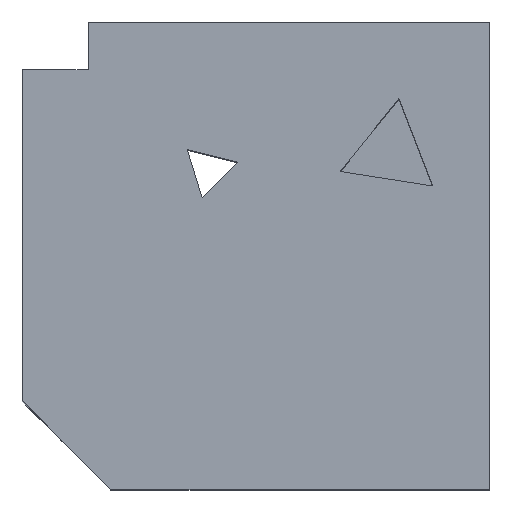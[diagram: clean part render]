
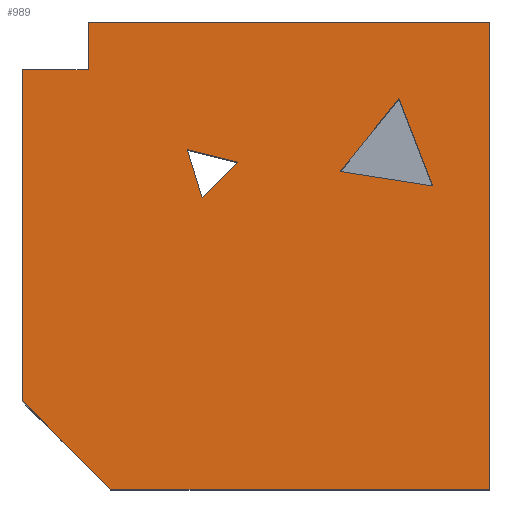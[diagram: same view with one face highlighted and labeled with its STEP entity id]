
A CAD part, top view. The second image highlights one B-rep face of the part: STEP entity #989.
In plain terms, the highlighted planar face has unit normal (0, 0, 1).
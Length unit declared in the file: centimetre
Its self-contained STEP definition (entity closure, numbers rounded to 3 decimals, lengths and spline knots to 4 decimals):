
#10 = CARTESIAN_POINT ( 'NONE',  ( 460.4262, 700.3163, 1000. ) ) ;
#12 = DIRECTION ( 'NONE',  ( -0.628, -0.778, 0. ) ) ;
#20 = DIRECTION ( 'NONE',  ( 0., -1., 0. ) ) ;
#73 = EDGE_CURVE ( 'NONE', #132, #2150, #1881, .T. ) ;
#84 = EDGE_CURVE ( 'NONE', #778, #1831, #168, .T. ) ;
#90 = CARTESIAN_POINT ( 'NONE',  ( 0., 0., 1000. ) ) ;
#98 = CARTESIAN_POINT ( 'NONE',  ( 0., 898.2097, 1000. ) ) ;
#132 = VERTEX_POINT ( 'NONE', #1567 ) ;
#168 = LINE ( 'NONE', #720, #2168 ) ;
#181 = ORIENTED_EDGE ( 'NONE', *, *, #884, .F. ) ;
#211 = ORIENTED_EDGE ( 'NONE', *, *, #1995, .T. ) ;
#254 = DIRECTION ( 'NONE',  ( 0., 0., 1. ) ) ;
#309 = DIRECTION ( 'NONE',  ( 0., 1., 0. ) ) ;
#317 = VERTEX_POINT ( 'NONE', #824 ) ;
#325 = LINE ( 'NONE', #1681, #794 ) ;
#332 = CARTESIAN_POINT ( 'NONE',  ( 140.848, 898.2097, 1000. ) ) ;
#339 = CARTESIAN_POINT ( 'NONE',  ( 877.9034, 649.1632, 1000. ) ) ;
#363 = ORIENTED_EDGE ( 'NONE', *, *, #84, .T. ) ;
#367 = EDGE_CURVE ( 'NONE', #317, #1569, #325, .T. ) ;
#371 = LINE ( 'NONE', #10, #940 ) ;
#375 = ORIENTED_EDGE ( 'NONE', *, *, #2151, .F. ) ;
#381 = EDGE_CURVE ( 'NONE', #2150, #496, #659, .T. ) ;
#393 = FACE_BOUND ( 'NONE', #1552, .T. ) ;
#425 = CARTESIAN_POINT ( 'NONE',  ( 679.9958, 680.1236, 1000. ) ) ;
#458 = ORIENTED_EDGE ( 'NONE', *, *, #2087, .F. ) ;
#465 = ORIENTED_EDGE ( 'NONE', *, *, #2161, .T. ) ;
#492 = DIRECTION ( 'NONE',  ( 0., 1., 0. ) ) ;
#493 = ORIENTED_EDGE ( 'NONE', *, *, #73, .F. ) ;
#496 = VERTEX_POINT ( 'NONE', #731 ) ;
#549 = CARTESIAN_POINT ( 'NONE',  ( 0., 1000., 1000. ) ) ;
#583 = AXIS2_PLACEMENT_3D ( 'NONE', #1623, #254, #1765 ) ;
#588 = DIRECTION ( 'NONE',  ( 1., 0., 0. ) ) ;
#596 = EDGE_CURVE ( 'NONE', #1457, #1194, #833, .T. ) ;
#613 = VECTOR ( 'NONE', #1137, 100. ) ;
#630 = VERTEX_POINT ( 'NONE', #1677 ) ;
#639 = CARTESIAN_POINT ( 'NONE',  ( 384.4826, 624.3727, 1000. ) ) ;
#650 = LINE ( 'NONE', #639, #1370 ) ;
#659 = LINE ( 'NONE', #1549, #1414 ) ;
#694 = EDGE_CURVE ( 'NONE', #2078, #1628, #1336, .T. ) ;
#718 = CARTESIAN_POINT ( 'NONE',  ( 0., 1000., 1000. ) ) ;
#720 = CARTESIAN_POINT ( 'NONE',  ( 94.6835, 94.6835, 1000. ) ) ;
#731 = CARTESIAN_POINT ( 'NONE',  ( 679.9958, 680.1236, 1000. ) ) ;
#754 = LINE ( 'NONE', #90, #1994 ) ;
#778 = VERTEX_POINT ( 'NONE', #1727 ) ;
#794 = VECTOR ( 'NONE', #492, 100. ) ;
#824 = CARTESIAN_POINT ( 'NONE',  ( 1000., 0., 1000. ) ) ;
#833 = LINE ( 'NONE', #332, #1474 ) ;
#866 = CARTESIAN_POINT ( 'NONE',  ( 384.4826, 624.3727, 1000. ) ) ;
#884 = EDGE_CURVE ( 'NONE', #1628, #630, #650, .T. ) ;
#892 = EDGE_LOOP ( 'NONE', ( #1133, #181, #1131 ) ) ;
#917 = EDGE_LOOP ( 'NONE', ( #1035, #458, #211, #363, #465, #1960, #928 ) ) ;
#928 = ORIENTED_EDGE ( 'NONE', *, *, #1376, .T. ) ;
#940 = VECTOR ( 'NONE', #2034, 100. ) ;
#979 = VECTOR ( 'NONE', #1342, 100. ) ;
#989 = ADVANCED_FACE ( 'NONE', ( #393, #1604, #1584 ), #1236, .T. ) ;
#1035 = ORIENTED_EDGE ( 'NONE', *, *, #596, .F. ) ;
#1114 = DIRECTION ( 'NONE',  ( 0.988, -0.155, 0. ) ) ;
#1118 = VERTEX_POINT ( 'NONE', #1679 ) ;
#1131 = ORIENTED_EDGE ( 'NONE', *, *, #694, .F. ) ;
#1133 = ORIENTED_EDGE ( 'NONE', *, *, #1254, .F. ) ;
#1135 = DIRECTION ( 'NONE',  ( 1., 0., 0. ) ) ;
#1137 = DIRECTION ( 'NONE',  ( 0.294, -0.956, 0. ) ) ;
#1162 = CARTESIAN_POINT ( 'NONE',  ( 189.3671, 0., 1000. ) ) ;
#1194 = VERTEX_POINT ( 'NONE', #1982 ) ;
#1213 = DIRECTION ( 'NONE',  ( 0.707, -0.707, 0. ) ) ;
#1236 = PLANE ( 'NONE',  #583 ) ;
#1254 = EDGE_CURVE ( 'NONE', #630, #2078, #371, .T. ) ;
#1272 = VECTOR ( 'NONE', #1603, 100. ) ;
#1282 = LINE ( 'NONE', #425, #1752 ) ;
#1336 = LINE ( 'NONE', #2032, #613 ) ;
#1342 = DIRECTION ( 'NONE',  ( -0.36, 0.933, 0. ) ) ;
#1370 = VECTOR ( 'NONE', #1684, 100. ) ;
#1376 = EDGE_CURVE ( 'NONE', #1569, #1194, #1926, .T. ) ;
#1414 = VECTOR ( 'NONE', #12, 100. ) ;
#1457 = VERTEX_POINT ( 'NONE', #1583 ) ;
#1471 = LINE ( 'NONE', #98, #1491 ) ;
#1474 = VECTOR ( 'NONE', #309, 100. ) ;
#1491 = VECTOR ( 'NONE', #1135, 100. ) ;
#1498 = CARTESIAN_POINT ( 'NONE',  ( 1000., 1000., 1000. ) ) ;
#1549 = CARTESIAN_POINT ( 'NONE',  ( 805.7621, 836.0364, 1000. ) ) ;
#1552 = EDGE_LOOP ( 'NONE', ( #493, #375, #2132 ) ) ;
#1567 = CARTESIAN_POINT ( 'NONE',  ( 877.9034, 649.1632, 1000. ) ) ;
#1569 = VERTEX_POINT ( 'NONE', #1498 ) ;
#1583 = CARTESIAN_POINT ( 'NONE',  ( 140.848, 898.2097, 1000. ) ) ;
#1584 = FACE_BOUND ( 'NONE', #892, .T. ) ;
#1602 = VECTOR ( 'NONE', #20, 100. ) ;
#1603 = DIRECTION ( 'NONE',  ( -1., 0., 0. ) ) ;
#1604 = FACE_OUTER_BOUND ( 'NONE', #917, .T. ) ;
#1617 = CARTESIAN_POINT ( 'NONE',  ( 352.8379, 727.0827, 1000. ) ) ;
#1623 = CARTESIAN_POINT ( 'NONE',  ( 0., 0., 1000. ) ) ;
#1628 = VERTEX_POINT ( 'NONE', #866 ) ;
#1677 = CARTESIAN_POINT ( 'NONE',  ( 460.4262, 700.3163, 1000. ) ) ;
#1679 = CARTESIAN_POINT ( 'NONE',  ( 0., 898.2097, 1000. ) ) ;
#1681 = CARTESIAN_POINT ( 'NONE',  ( 1000., 1000., 1000. ) ) ;
#1684 = DIRECTION ( 'NONE',  ( 0.707, 0.707, 0. ) ) ;
#1727 = CARTESIAN_POINT ( 'NONE',  ( 0., 189.3671, 1000. ) ) ;
#1752 = VECTOR ( 'NONE', #1114, 100. ) ;
#1765 = DIRECTION ( 'NONE',  ( 1., 0., 0. ) ) ;
#1831 = VERTEX_POINT ( 'NONE', #1162 ) ;
#1881 = LINE ( 'NONE', #339, #979 ) ;
#1926 = LINE ( 'NONE', #718, #1272 ) ;
#1952 = CARTESIAN_POINT ( 'NONE',  ( 805.7621, 836.0364, 1000. ) ) ;
#1960 = ORIENTED_EDGE ( 'NONE', *, *, #367, .T. ) ;
#1982 = CARTESIAN_POINT ( 'NONE',  ( 140.848, 1000., 1000. ) ) ;
#1994 = VECTOR ( 'NONE', #588, 100. ) ;
#1995 = EDGE_CURVE ( 'NONE', #1118, #778, #2117, .T. ) ;
#2032 = CARTESIAN_POINT ( 'NONE',  ( 352.8379, 727.0827, 1000. ) ) ;
#2034 = DIRECTION ( 'NONE',  ( -0.97, 0.241, 0. ) ) ;
#2078 = VERTEX_POINT ( 'NONE', #1617 ) ;
#2087 = EDGE_CURVE ( 'NONE', #1118, #1457, #1471, .T. ) ;
#2117 = LINE ( 'NONE', #549, #1602 ) ;
#2132 = ORIENTED_EDGE ( 'NONE', *, *, #381, .F. ) ;
#2150 = VERTEX_POINT ( 'NONE', #1952 ) ;
#2151 = EDGE_CURVE ( 'NONE', #496, #132, #1282, .T. ) ;
#2161 = EDGE_CURVE ( 'NONE', #1831, #317, #754, .T. ) ;
#2168 = VECTOR ( 'NONE', #1213, 100. ) ;
